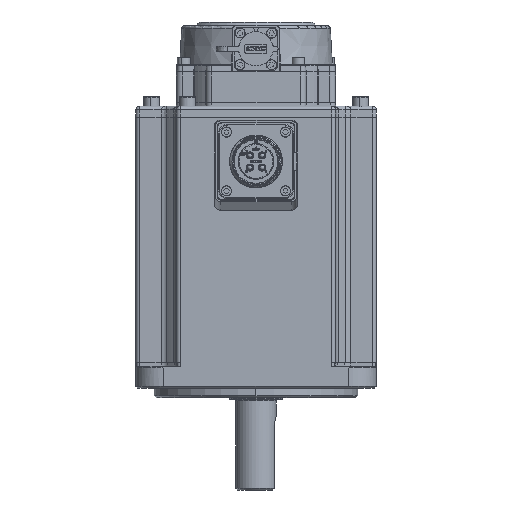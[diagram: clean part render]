
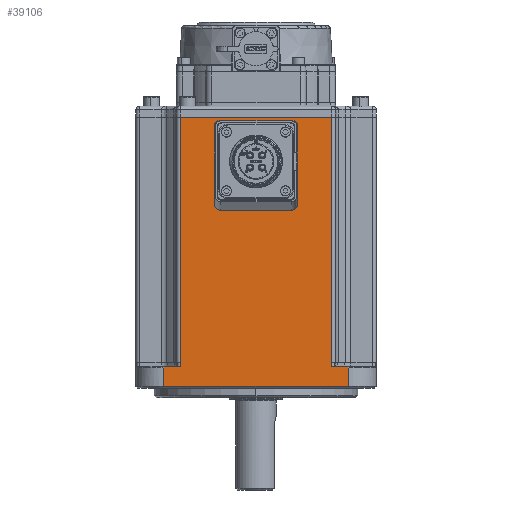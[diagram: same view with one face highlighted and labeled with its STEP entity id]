
A CAD part, left-side view. The second image highlights one B-rep face of the part: STEP entity #39106.
In plain terms, the highlighted planar face has unit normal (-1, 0, 0).
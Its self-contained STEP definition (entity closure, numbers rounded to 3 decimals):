
#3375 = VERTEX_POINT ( 'NONE', #40560 ) ;
#3989 = ORIENTED_EDGE ( 'NONE', *, *, #87925, .T. ) ;
#7919 = PLANE ( 'NONE',  #14987 ) ;
#8485 = VECTOR ( 'NONE', #75686, 1000. ) ;
#9592 = VECTOR ( 'NONE', #75750, 1000. ) ;
#10337 = LINE ( 'NONE', #99847, #53688 ) ;
#10555 = CARTESIAN_POINT ( 'NONE',  ( -65., -41.035, 64.75 ) ) ;
#11267 = DIRECTION ( 'NONE',  ( 0., 0., 1. ) ) ;
#11773 = CARTESIAN_POINT ( 'NONE',  ( -65., -41.035, -67.75 ) ) ;
#14053 = DIRECTION ( 'NONE',  ( 0., -1., 0. ) ) ;
#14489 = ORIENTED_EDGE ( 'NONE', *, *, #44556, .F. ) ;
#14987 = AXIS2_PLACEMENT_3D ( 'NONE', #73609, #56692, #15354 ) ;
#15354 = DIRECTION ( 'NONE',  ( 0., 1., 0. ) ) ;
#17964 = VERTEX_POINT ( 'NONE', #88263 ) ;
#18709 = LINE ( 'NONE', #92318, #56473 ) ;
#19234 = CARTESIAN_POINT ( 'NONE',  ( -65., -41.035, 64.75 ) ) ;
#20170 = CARTESIAN_POINT ( 'NONE',  ( -65., -45.287, -68.613 ) ) ;
#20787 = CARTESIAN_POINT ( 'NONE',  ( -65., 50., 64.75 ) ) ;
#21328 = CARTESIAN_POINT ( 'NONE',  ( -65., 41.035, -70.094 ) ) ;
#22911 = VECTOR ( 'NONE', #74517, 1000. ) ;
#24126 = LINE ( 'NONE', #39486, #46387 ) ;
#24168 = EDGE_CURVE ( 'NONE', #96864, #65981, #24126, .T. ) ;
#25324 = DIRECTION ( 'NONE',  ( 0., 0., -1. ) ) ;
#26863 = LINE ( 'NONE', #49183, #36783 ) ;
#27176 = DIRECTION ( 'NONE',  ( 0., -1., 0. ) ) ;
#30675 = EDGE_CURVE ( 'NONE', #40255, #42968, #57786, .T. ) ;
#31168 = EDGE_CURVE ( 'NONE', #96864, #91631, #26863, .T. ) ;
#35612 = ORIENTED_EDGE ( 'NONE', *, *, #77432, .F. ) ;
#35955 = EDGE_LOOP ( 'NONE', ( #95265, #3989, #14489, #93958, #88278, #36114, #35612, #90463, #62053, #67250 ) ) ;
#36114 = ORIENTED_EDGE ( 'NONE', *, *, #41621, .T. ) ;
#36783 = VECTOR ( 'NONE', #25324, 1000. ) ;
#39106 = ADVANCED_FACE ( 'NONE', ( #57743 ), #7919, .F. ) ;
#39486 = CARTESIAN_POINT ( 'NONE',  ( -65., -43., 64.75 ) ) ;
#40255 = VERTEX_POINT ( 'NONE', #86215 ) ;
#40560 = CARTESIAN_POINT ( 'NONE',  ( -65., -50., -80.75 ) ) ;
#41621 = EDGE_CURVE ( 'NONE', #3375, #75166, #98452, .T. ) ;
#42524 = VECTOR ( 'NONE', #50915, 1000. ) ;
#42968 = VERTEX_POINT ( 'NONE', #11773 ) ;
#43370 = CARTESIAN_POINT ( 'NONE',  ( -65., -50., 64.75 ) ) ;
#44556 = EDGE_CURVE ( 'NONE', #101241, #98750, #81146, .T. ) ;
#46387 = VECTOR ( 'NONE', #14053, 1000. ) ;
#49045 = EDGE_CURVE ( 'NONE', #42968, #65981, #68508, .T. ) ;
#49183 = CARTESIAN_POINT ( 'NONE',  ( -65., 41.035, 64.75 ) ) ;
#49646 = CARTESIAN_POINT ( 'NONE',  ( -65., 41.035, -67.75 ) ) ;
#50915 = DIRECTION ( 'NONE',  ( 0., -1., 0.017 ) ) ;
#53122 = DIRECTION ( 'NONE',  ( 0., 0., -1. ) ) ;
#53688 = VECTOR ( 'NONE', #90372, 1000. ) ;
#56473 = VECTOR ( 'NONE', #27176, 1000. ) ;
#56692 = DIRECTION ( 'NONE',  ( 1., 0., 0. ) ) ;
#57743 = FACE_OUTER_BOUND ( 'NONE', #35955, .T. ) ;
#57786 = LINE ( 'NONE', #10555, #9592 ) ;
#59276 = CARTESIAN_POINT ( 'NONE',  ( -65., -41.035, 64.75 ) ) ;
#60341 = CARTESIAN_POINT ( 'NONE',  ( -65., 50., -70.247 ) ) ;
#62053 = ORIENTED_EDGE ( 'NONE', *, *, #49045, .T. ) ;
#64300 = CARTESIAN_POINT ( 'NONE',  ( -65., 41.035, 64.75 ) ) ;
#65981 = VERTEX_POINT ( 'NONE', #59276 ) ;
#66398 = CARTESIAN_POINT ( 'NONE',  ( -65., 41.035, -67.75 ) ) ;
#67250 = ORIENTED_EDGE ( 'NONE', *, *, #24168, .F. ) ;
#68508 = LINE ( 'NONE', #19234, #102217 ) ;
#69006 = LINE ( 'NONE', #20787, #87599 ) ;
#70352 = EDGE_CURVE ( 'NONE', #17964, #3375, #18709, .T. ) ;
#73609 = CARTESIAN_POINT ( 'NONE',  ( -65., -43., 64.75 ) ) ;
#74517 = DIRECTION ( 'NONE',  ( 0., 0., -1. ) ) ;
#75166 = VERTEX_POINT ( 'NONE', #79783 ) ;
#75686 = DIRECTION ( 'NONE',  ( 0., 0., 1. ) ) ;
#75750 = DIRECTION ( 'NONE',  ( 0., 0., 1. ) ) ;
#77432 = EDGE_CURVE ( 'NONE', #40255, #75166, #10337, .T. ) ;
#79064 = EDGE_CURVE ( 'NONE', #101241, #17964, #69006, .T. ) ;
#79783 = CARTESIAN_POINT ( 'NONE',  ( -65., -50., -70.256 ) ) ;
#81146 = LINE ( 'NONE', #20170, #42524 ) ;
#86215 = CARTESIAN_POINT ( 'NONE',  ( -65., -41.035, -70.096 ) ) ;
#87599 = VECTOR ( 'NONE', #53122, 1000. ) ;
#87925 = EDGE_CURVE ( 'NONE', #91631, #98750, #89899, .T. ) ;
#88263 = CARTESIAN_POINT ( 'NONE',  ( -65., 50., -80.75 ) ) ;
#88278 = ORIENTED_EDGE ( 'NONE', *, *, #70352, .T. ) ;
#89899 = LINE ( 'NONE', #49646, #22911 ) ;
#90372 = DIRECTION ( 'NONE',  ( 0., -1., -0.018 ) ) ;
#90463 = ORIENTED_EDGE ( 'NONE', *, *, #30675, .T. ) ;
#91631 = VERTEX_POINT ( 'NONE', #66398 ) ;
#92318 = CARTESIAN_POINT ( 'NONE',  ( -65., -50., -80.75 ) ) ;
#93958 = ORIENTED_EDGE ( 'NONE', *, *, #79064, .T. ) ;
#95265 = ORIENTED_EDGE ( 'NONE', *, *, #31168, .T. ) ;
#96864 = VERTEX_POINT ( 'NONE', #64300 ) ;
#98452 = LINE ( 'NONE', #43370, #8485 ) ;
#98750 = VERTEX_POINT ( 'NONE', #21328 ) ;
#99847 = CARTESIAN_POINT ( 'NONE',  ( -65., -40.607, -70.089 ) ) ;
#101241 = VERTEX_POINT ( 'NONE', #60341 ) ;
#102217 = VECTOR ( 'NONE', #11267, 1000. ) ;
